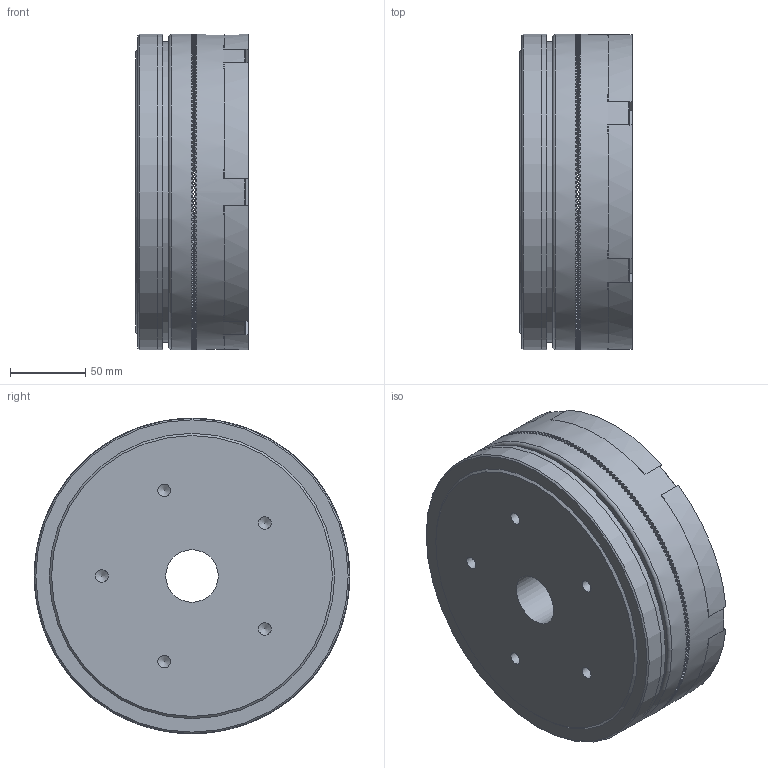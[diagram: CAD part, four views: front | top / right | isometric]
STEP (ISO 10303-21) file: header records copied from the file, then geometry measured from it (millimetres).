
FILE_DESCRIPTION(/* description */ (''),/* implementation_level */ '2;1');
FILE_NAME(/* name */ '\\Srv-tecnico\DATI\UFFICIO TECNICO\ARCHIVIO INVENTOR\DISEGNI\UFFICIO TECNICO\07_Innesti_Elettromagnetici_a_Dentini\07_01 EC_Z\07_01_210_01 EC210_Z\07_01_210_01 EC210_Z@STEP.stp',/* time_stamp */ '2015-04-22T10:45:40+02:00',/* author */ ('stefano'),/* organization */ (''),/* preprocessor_version */ 'ST-DEVELOPER v15.6',/* originating_system */ 'Autodesk Inventor 2015',/* authorisation */ '');
FILE_SCHEMA (('AUTOMOTIVE_DESIGN { 1 0 10303 214 3 1 1 }'));
Products named in the file (1): 07_01_210_01 EC210_Z_Substitute_1
Bounding box: 75 x 210 x 210 mm (x, y, z)
Volume: 2154805.2 mm3; surface area: 214541.9 mm2
Topology: 2 solids, 2 shells, 2006 faces, 5878 edges, 3887 vertices
Faces by surface type: plane 1899, cylinder 82, cone 24, torus 1
Full cylindrical faces by diameter (mm): 4.917 x3, 7.9 x3, 8.376 x5, 8.5 x3, 12 x3, 13 x3, 35 x1, 100 x3, 137 x1, 165 x1, 190 x1, 192 x1, 194 x1, 200 x1, 210 x4
Entity records: 68468 total; most frequent: DIRECTION 13392, CARTESIAN_POINT 11949, ORIENTED_EDGE 11634, EDGE_CURVE 5817, AXIS2_PLACEMENT_3D 5610, VERTEX_POINT 3873, ELLIPSE 2562, LINE 2172
